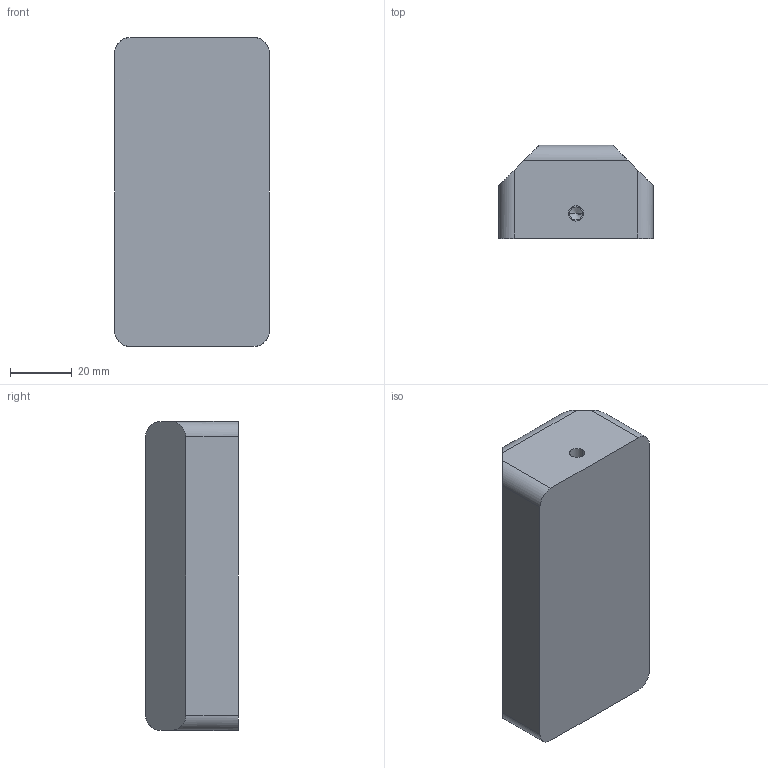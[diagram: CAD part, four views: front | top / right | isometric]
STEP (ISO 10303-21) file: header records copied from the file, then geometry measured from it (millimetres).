
FILE_DESCRIPTION (( 'STEP AP203' ), '1' );
FILE_NAME ('0003494 EZ-0072 50x100.STEP', '2022-01-31T16:38:19', ( '' ), ( '' ), 'SwSTEP 2.0', 'SolidWorks 2021', '' );
FILE_SCHEMA (( 'CONFIG_CONTROL_DESIGN' ));
Length unit declared in the file: millimetre
Products named in the file (1): 0003494 EZ-0072 50x100
Bounding box: 50 x 30 x 100 mm (x, y, z)
Volume: 130355 mm3; surface area: 18747.1 mm2
Topology: 4 solids, 4 shells, 102 faces, 232 edges, 140 vertices
Faces by surface type: cylinder 38, plane 34, cone 20, torus 8, sphere 2
Entity records: 2859 total; most frequent: DIRECTION 518, CARTESIAN_POINT 487, ORIENTED_EDGE 440, EDGE_CURVE 220, AXIS2_PLACEMENT_3D 203, VERTEX_POINT 140, EDGE_LOOP 118, VECTOR 112
